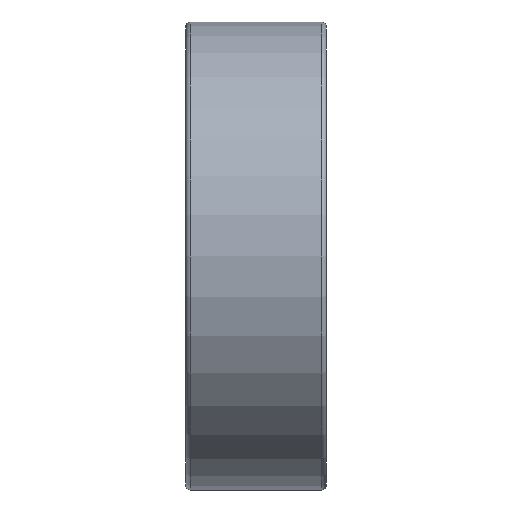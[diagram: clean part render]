
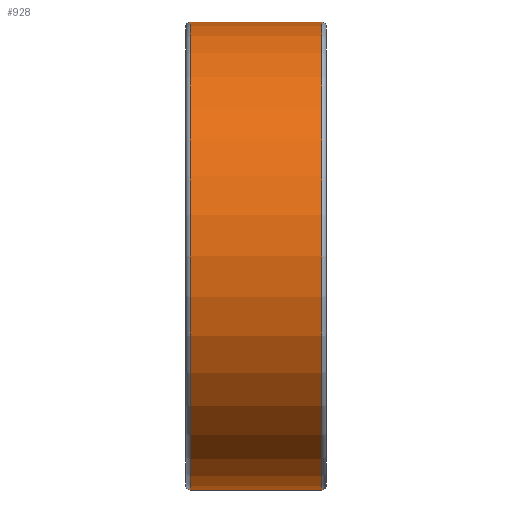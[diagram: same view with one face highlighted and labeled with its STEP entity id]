
A CAD part, front view. The second image highlights one B-rep face of the part: STEP entity #928.
In plain terms, the highlighted cylindrical face has radius 15 mm (diameter 30 mm), a full revolution.
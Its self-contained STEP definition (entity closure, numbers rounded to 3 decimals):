
#157=CYLINDRICAL_SURFACE($,#1082,15.);
#178=FACE_BOUND($,#311,.T.);
#239=FACE_OUTER_BOUND($,#310,.T.);
#310=EDGE_LOOP($,(#852));
#311=EDGE_LOOP($,(#853));
#411=CIRCLE($,#1080,15.);
#413=CIRCLE($,#1083,15.);
#501=VERTEX_POINT($,#2365);
#503=VERTEX_POINT($,#2370);
#622=EDGE_CURVE($,#501,#501,#411,.T.);
#624=EDGE_CURVE($,#503,#503,#413,.T.);
#852=ORIENTED_EDGE($,*,*,#624,.F.);
#853=ORIENTED_EDGE($,*,*,#622,.T.);
#928=ADVANCED_FACE($,(#239,#178),#157,.T.);
#1080=AXIS2_PLACEMENT_3D($,#2366,#1378,#1379);
#1082=AXIS2_PLACEMENT_3D($,#2369,#1382,#1383);
#1083=AXIS2_PLACEMENT_3D($,#2371,#1384,#1385);
#1378=DIRECTION('center_axis',(1.,0.,0.));
#1379=DIRECTION('ref_axis',(0.,0.,-1.));
#1382=DIRECTION('center_axis',(1.,0.,0.));
#1383=DIRECTION('ref_axis',(0.,1.,0.));
#1384=DIRECTION('center_axis',(1.,0.,0.));
#1385=DIRECTION('ref_axis',(0.,0.,-1.));
#2365=CARTESIAN_POINT('',(-4.2,15.,0.));
#2366=CARTESIAN_POINT('Origin',(-4.2,0.,0.));
#2369=CARTESIAN_POINT('Origin',(0.,0.,0.));
#2370=CARTESIAN_POINT('',(4.2,15.,0.));
#2371=CARTESIAN_POINT('Origin',(4.2,0.,0.));
